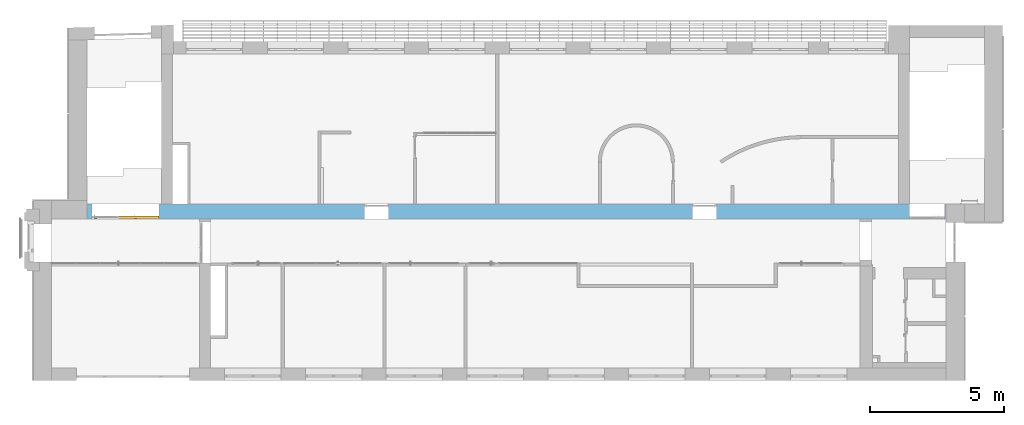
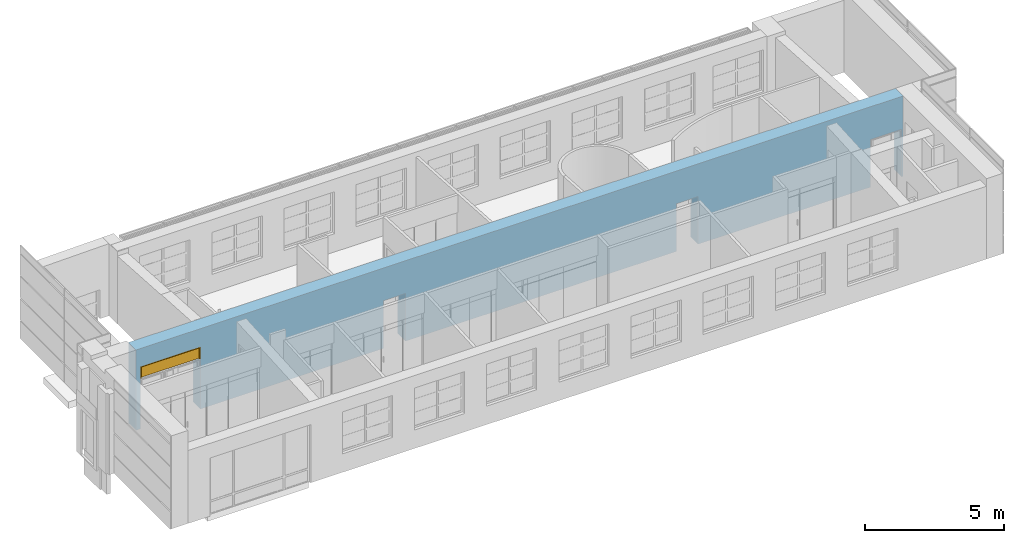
"""IFC2X3 building model written with IfcOpenShell, lengths in millimetres."""

import ifcopenshell
import ifcopenshell.guid

model = None  # the IFC model being written
_history = None  # IfcOwnerHistory: only IFC2X3 demands one
_inside = {}  # id of a spatial element -> (the spatial element, [elements in it])
_under = {}  # id of a project, library or spatial element -> (it, [spatial elements below it])
_declared = {}  # id of a project -> (the project, [libraries it declares])
_typed = {}  # id of a type object -> (the type object, [elements of that type])
_made_of = {}  # id of a material, layer set ... -> (it, [elements and type objects made of it])


def new_model(schema):
    """Start an empty IFC model of exactly this schema.

    Asked for "IFC4X3", IfcOpenShell would pick the latest addendum, in which some entities
    have other attributes; the version numbers below select the first issue.
    IFC2X3 requires an IfcOwnerHistory on every rooted entity: one is made here for all.
    """
    global model, _history
    if schema == "IFC4X3":
        model = ifcopenshell.file(schema_version=(4, 3, 0, 0))
    else:
        model = ifcopenshell.file(schema=schema)
    _inside.clear()
    _under.clear()
    _declared.clear()
    _typed.clear()
    _made_of.clear()
    _history = None
    if model.schema == "IFC2X3":
        org = make("IfcOrganization", Name="unknown")
        user = make(
            "IfcPersonAndOrganization",
            ThePerson=make("IfcPerson", FamilyName="unknown"),
            TheOrganization=org,
        )
        app = make(
            "IfcApplication",
            ApplicationDeveloper=org,
            Version="unknown",
            ApplicationFullName="unknown",
            ApplicationIdentifier="unknown",
        )
        _history = make(
            "IfcOwnerHistory",
            OwningUser=user,
            OwningApplication=app,
            ChangeAction="ADDED",
            CreationDate=0,
        )
    return model


def make(cls, **values):
    """One entity of the class cls with the attributes given. An attribute that is None is left unset."""
    return model.create_entity(
        cls, **{name: value for name, value in values.items() if value is not None}
    )


def entity(cls, *values):
    """Any entity or typed value of the class cls, its attributes in the order of the schema. None: left unset."""
    e = model.create_entity(cls)
    for i, value in enumerate(values):
        if value is not None:
            e[i] = value
    return e


def rooted(cls, **values):
    """An entity with a GlobalId (a new one), such as an element, a storey or a relation."""
    return make(cls, GlobalId=ifcopenshell.guid.new(), OwnerHistory=_history, **values)


def si_unit(unit_type, name, prefix=None):
    """IfcSIUnit, for example si_unit("LENGTHUNIT", "METRE", prefix="MILLI")."""
    return make("IfcSIUnit", UnitType=unit_type, Prefix=prefix, Name=name)


def converted_unit(unit_type, name, factor, base, dimensions=None, offset=None):
    """IfcConversionBasedUnit, such as the inch: factor (a typed value) times the base unit."""
    return make(
        "IfcConversionBasedUnit"
        if offset is None
        else "IfcConversionBasedUnitWithOffset",
        ConversionOffset=offset,
        Dimensions=None
        if dimensions is None
        else entity("IfcDimensionalExponents", *dimensions),
        UnitType=unit_type,
        Name=name,
        ConversionFactor=make(
            "IfcMeasureWithUnit", ValueComponent=factor, UnitComponent=base
        ),
    )


def derived_unit(unit_type, elements):
    """IfcDerivedUnit: a product of units, each with its exponent."""
    return make(
        "IfcDerivedUnit",
        Elements=[
            make("IfcDerivedUnitElement", Unit=unit, Exponent=power)
            for unit, power in elements
        ],
        UnitType=unit_type,
    )


def assignment(units):
    """IfcUnitAssignment: the units of a project."""
    return None if units is None else make("IfcUnitAssignment", Units=units)


def point(xyz):
    """IfcCartesianPoint."""
    return None if xyz is None else make("IfcCartesianPoint", Coordinates=xyz)


def direction(xyz):
    """IfcDirection."""
    return None if xyz is None else make("IfcDirection", DirectionRatios=xyz)


def frame(location, z_axis=None, x_axis=None):
    """IfcAxis2Placement3D, a coordinate frame: its origin and axes. An axis left out is left unset."""
    return make(
        "IfcAxis2Placement3D",
        Location=point(location),
        Axis=direction(z_axis),
        RefDirection=direction(x_axis),
    )


def frame_2d(location, x_axis=None):
    """IfcAxis2Placement2D, a coordinate frame in the plane: its origin and x axis."""
    return make(
        "IfcAxis2Placement2D", Location=point(location), RefDirection=direction(x_axis)
    )


def origin():
    """The frame at (0, 0, 0) with its axes left unset."""
    return frame((0.0, 0.0, 0.0))


def place(relative_to, where):
    """IfcLocalPlacement: puts the frame where relative to a parent placement (None: the world)."""
    return make(
        "IfcLocalPlacement", PlacementRelTo=relative_to, RelativePlacement=where
    )


def context(
    kind, dimensions, precision=None, world=None, true_north=None, identifier=None
):
    """IfcGeometricRepresentationContext, for example the 3D "Model" context."""
    return make(
        "IfcGeometricRepresentationContext",
        ContextIdentifier=identifier,
        ContextType=kind,
        CoordinateSpaceDimension=dimensions,
        Precision=precision,
        WorldCoordinateSystem=world,
        TrueNorth=true_north,
    )


def subcontext(parent, identifier, kind, view, scale=None):
    """IfcGeometricRepresentationSubContext, for example "Body" below "Model"."""
    return make(
        "IfcGeometricRepresentationSubContext",
        ContextIdentifier=identifier,
        ContextType=kind,
        ParentContext=parent,
        TargetScale=scale,
        TargetView=view,
    )


def project(units=None, contexts=None):
    """IfcProject with its units and contexts."""
    return rooted(
        "IfcProject",
        Name="project",
        RepresentationContexts=contexts,
        UnitsInContext=assignment(units),
    )


def spatial(cls, under=None, at=None, **own):
    """A site, building, storey or space (cls), placed at a placement, below another one or the project."""
    s = rooted(cls, ObjectPlacement=at, **own)
    if under is not None:
        _under.setdefault(under.id(), (under, []))[1].append(s)
    return s


def profile(cls, at=None, kind="AREA", **sizes):
    """A parametric profile (cls). Its sizes go by their IFC names, for example OverallWidth=200.0."""
    return make(cls, ProfileType=kind, Position=at, **sizes)


def rectangle(**sizes):
    """IfcRectangleProfileDef."""
    return profile("IfcRectangleProfileDef", **sizes)


def extrude(swept, where, along, depth):
    """IfcExtrudedAreaSolid: the profile swept, set in the frame where, extruded along a direction by depth."""
    return make(
        "IfcExtrudedAreaSolid",
        SweptArea=swept,
        Position=where,
        ExtrudedDirection=direction(along),
        Depth=depth,
    )


def faces_of(points, faces, orient=None, outer=None):
    """IfcFace entities. A face is a list of loops; a loop is a list of indices into points, from 0.

    orient and outer hold one flag for each loop. By default every Orientation is true, the
    first loop of a face is its IfcFaceOuterBound and the others are IfcFaceBound.
    """
    made = []
    for i, loops in enumerate(faces):
        bounds = []
        for j, loop in enumerate(loops):
            is_outer = j == 0 if outer is None else outer[i][j]
            bounds.append(
                make(
                    "IfcFaceOuterBound" if is_outer else "IfcFaceBound",
                    Bound=make("IfcPolyLoop", Polygon=[points[k] for k in loop]),
                    Orientation=True if orient is None else orient[i][j],
                )
            )
        made.append(make("IfcFace", Bounds=bounds))
    return made


def faceted_brep(points, faces, orient=None, outer=None, voids=None):
    """IfcFacetedBrep: a solid bounded by flat faces; with voids (closed shells), ...WithVoids."""
    shared = [point(p) for p in points]
    hull = make("IfcClosedShell", CfsFaces=faces_of(shared, faces, orient, outer))
    if voids is None:
        return make("IfcFacetedBrep", Outer=hull)
    return make(
        "IfcFacetedBrepWithVoids",
        Outer=hull,
        Voids=[
            make(cls, CfsFaces=faces_of(shared, fs, o, b)) for cls, fs, o, b in voids
        ],
    )


def shape(context_of_items, identifier, shape_type, items):
    """IfcShapeRepresentation: the items that make up one representation, for example the "Body"."""
    return make(
        "IfcShapeRepresentation",
        ContextOfItems=context_of_items,
        RepresentationIdentifier=identifier,
        RepresentationType=shape_type,
        Items=items,
    )


def source(mapping_origin, context_of_items, identifier, shape_type, items):
    """IfcRepresentationMap: a shape defined once, which mapped items show again and again."""
    return make(
        "IfcRepresentationMap",
        MappingOrigin=mapping_origin,
        MappedRepresentation=shape(context_of_items, identifier, shape_type, items),
    )


def transform(
    local_origin,
    x_axis=None,
    y_axis=None,
    z_axis=None,
    scale=None,
    scale2=None,
    scale3=None,
    uniform=True,
):
    """IfcCartesianTransformationOperator3D, or its non-uniform kind. x_axis, y_axis, z_axis: its Axis1, 2, 3."""
    if uniform:
        return make(
            "IfcCartesianTransformationOperator3D",
            Axis1=direction(x_axis),
            Axis2=direction(y_axis),
            LocalOrigin=point(local_origin),
            Scale=scale,
            Axis3=direction(z_axis),
        )
    return make(
        "IfcCartesianTransformationOperator3DnonUniform",
        Axis1=direction(x_axis),
        Axis2=direction(y_axis),
        LocalOrigin=point(local_origin),
        Scale=scale,
        Axis3=direction(z_axis),
        Scale2=scale2,
        Scale3=scale3,
    )


def mapped(mapping_source, mapping_target):
    """IfcMappedItem: shows the shape of a source again, moved by a transform."""
    return make(
        "IfcMappedItem", MappingSource=mapping_source, MappingTarget=mapping_target
    )


def material(Name=None, Category=None):
    """IfcMaterial."""
    return make("IfcMaterial", Name=Name, Category=Category)


def material_list(materials):
    """IfcMaterialList."""
    return make("IfcMaterialList", Materials=materials)


def layer(
    of_material, thickness, ventilated=None, Name=None, Category=None, Priority=None
):
    """IfcMaterialLayer: one layer of a wall or slab, of a material (None: an air gap)."""
    return make(
        "IfcMaterialLayer",
        Material=of_material,
        LayerThickness=thickness,
        IsVentilated=ventilated,
        Name=Name,
        Category=Category,
        Priority=Priority,
    )


def layer_set(layers, Name=None):
    """IfcMaterialLayerSet."""
    return make("IfcMaterialLayerSet", MaterialLayers=layers, LayerSetName=Name)


def layer_usage(for_layer_set, set_direction, sense, offset, extent=None):
    """IfcMaterialLayerSetUsage: how a layer set lies in its element."""
    return make(
        "IfcMaterialLayerSetUsage",
        ForLayerSet=for_layer_set,
        LayerSetDirection=set_direction,
        DirectionSense=sense,
        OffsetFromReferenceLine=offset,
        ReferenceExtent=extent,
    )


def made_of(thing, what):
    """Note that an element or type object is made of a material, layer set ...; save() writes the relation."""
    if what is not None:
        _made_of.setdefault(what.id(), (what, []))[1].append(thing)
    return thing


def type_object(cls, material=None, **own):
    """A type object (cls), such as IfcWallType, which elements share."""
    return made_of(rooted(cls, **own), material)


def type_shapes(of_type, sources):
    """Give a type object the sources (RepresentationMaps) that its elements show as mapped items."""
    of_type.RepresentationMaps = sources


def element(
    cls,
    number,
    at=None,
    inside=None,
    cuts=None,
    type_object=None,
    material=None,
    context=None,
    identifier="Body",
    shape_type=None,
    held_by="IfcProductDefinitionShape",
    body=None,
    shapes=None,
    **own,
):
    """One element of the class cls, such as IfcWall. Its Tag is "e" and its number.

    at: its placement. inside: the storey or other place that contains it. cuts: it is an
    opening in that element (IfcRelVoidsElement). A single representation is given by context,
    identifier, shape_type and body (its items); several are given by shapes. held_by: the class
    of the entity that holds the representations. save() writes the other relations.
    """
    e = rooted(cls, Tag="e%d" % number, ObjectPlacement=at, **own)
    if body is not None:
        shapes = [shape(context, identifier, shape_type, body)]
    if shapes is not None:
        e.Representation = make(held_by, Representations=shapes)
    if inside is not None:
        _inside.setdefault(inside.id(), (inside, []))[1].append(e)
    if cuts is not None:
        rooted(
            "IfcRelVoidsElement", RelatingBuildingElement=cuts, RelatedOpeningElement=e
        )
    if type_object is not None:
        _typed.setdefault(type_object.id(), (type_object, []))[1].append(e)
    return made_of(e, material)


def fill(opening, filler):
    """IfcRelFillsElement: the door or window that sits in an opening."""
    return rooted(
        "IfcRelFillsElement",
        RelatingOpeningElement=opening,
        RelatedBuildingElement=filler,
    )


def aggregate(whole, parts):
    """IfcRelAggregates: a whole, such as a stair, and the parts it consists of."""
    return rooted("IfcRelAggregates", RelatingObject=whole, RelatedObjects=parts)


def save(model, path):
    """Write the relations noted so far, then the file.

    IfcRelAggregates (storeys below a building ...), IfcRelContainedInSpatialStructure (elements
    in a storey), IfcRelDefinesByType, IfcRelAssociatesMaterial and IfcRelDeclares: one each for
    every whole, place, type object, material and project.
    """
    for whole, parts in _under.values():
        aggregate(whole, parts)
    for where, things in _inside.values():
        rooted(
            "IfcRelContainedInSpatialStructure",
            RelatedElements=things,
            RelatingStructure=where,
        )
    for kind, things in _typed.values():
        rooted("IfcRelDefinesByType", RelatedObjects=things, RelatingType=kind)
    for what, things in _made_of.values():
        rooted("IfcRelAssociatesMaterial", RelatedObjects=things, RelatingMaterial=what)
    for by, libraries in _declared.values():
        rooted("IfcRelDeclares", RelatingContext=by, RelatedDefinitions=libraries)
    model.write(path)


model = new_model("IFC2X3")

# Units and contexts
model_context = context("Model", 3, precision=0.01, world=origin(), true_north=direction((6.12303176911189e-17, 1.0)))
body_context = subcontext(model_context, "Body", "Model", "MODEL_VIEW")
ifc_project = project(units=[si_unit("LENGTHUNIT", "METRE", prefix="MILLI"), si_unit("AREAUNIT", "SQUARE_METRE"), si_unit("VOLUMEUNIT", "CUBIC_METRE"), converted_unit("PLANEANGLEUNIT", "DEGREE", entity("IfcRatioMeasure", 0.0174532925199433), si_unit("PLANEANGLEUNIT", "RADIAN"), dimensions=[0, 0, 0, 0, 0, 0, 0]), si_unit("MASSUNIT", "GRAM", prefix="KILO"), derived_unit("MASSDENSITYUNIT", [(si_unit("MASSUNIT", "GRAM", prefix="KILO"), 1), (si_unit("LENGTHUNIT", "METRE"), -3)]), si_unit("TIMEUNIT", "SECOND"), si_unit("FREQUENCYUNIT", "HERTZ"), si_unit("THERMODYNAMICTEMPERATUREUNIT", "DEGREE_CELSIUS"), derived_unit("THERMALTRANSMITTANCEUNIT", [(si_unit("MASSUNIT", "GRAM", prefix="KILO"), 1), (si_unit("THERMODYNAMICTEMPERATUREUNIT", "KELVIN"), -1), (si_unit("TIMEUNIT", "SECOND"), -3)]), derived_unit("VOLUMETRICFLOWRATEUNIT", [(si_unit("LENGTHUNIT", "METRE"), 3), (si_unit("TIMEUNIT", "SECOND"), -1)]), si_unit("ELECTRICCURRENTUNIT", "AMPERE"), si_unit("ELECTRICVOLTAGEUNIT", "VOLT"), si_unit("POWERUNIT", "WATT"), si_unit("FORCEUNIT", "NEWTON", prefix="KILO"), si_unit("ILLUMINANCEUNIT", "LUX"), si_unit("LUMINOUSFLUXUNIT", "LUMEN"), si_unit("LUMINOUSINTENSITYUNIT", "CANDELA"), derived_unit("USERDEFINED", [(si_unit("MASSUNIT", "GRAM", prefix="KILO"), -1), (si_unit("LENGTHUNIT", "METRE"), -2), (si_unit("TIMEUNIT", "SECOND"), 3), (si_unit("LUMINOUSFLUXUNIT", "LUMEN"), 1)]), derived_unit("LINEARVELOCITYUNIT", [(si_unit("LENGTHUNIT", "METRE"), 1), (si_unit("TIMEUNIT", "SECOND"), -1)]), si_unit("PRESSUREUNIT", "PASCAL"), derived_unit("USERDEFINED", [(si_unit("LENGTHUNIT", "METRE"), -2), (si_unit("MASSUNIT", "GRAM", prefix="KILO"), 1), (si_unit("TIMEUNIT", "SECOND"), -2)])], contexts=[model_context])

# Site, building, storey
site_placement = place(None, frame((-151.875543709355, 2715.0, 0.0)))
site = spatial("IfcSite", under=ifc_project, at=site_placement, Name="Surface", CompositionType="ELEMENT")
building_placement = place(site_placement, origin())
building = spatial("IfcBuilding", under=site, at=building_placement, CompositionType="ELEMENT")
storey_1_placement = place(building_placement, frame((0.0, 0.0, 10060.0)))
storey_1 = spatial("IfcBuildingStorey", under=building, at=storey_1_placement, Name="4 korrus", CompositionType="ELEMENT", Elevation=10060.0000000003)

# Wall, openings
ifc_material_1 = material(Name="__Kips GN13_tava")
ifc_layer_1 = layer(ifc_material_1, 20.0)
ifc_material_2 = material(Name="Masonry - Brick")
ifc_layer_2 = layer(ifc_material_2, 510.0)
ifc_layer_3 = layer(ifc_material_1, 20.0)
ifc_layer_set = layer_set([ifc_layer_1, ifc_layer_2, ifc_layer_3], Name="Basic Wall:SS-1")
ifc_layer_usage = layer_usage(ifc_layer_set, "AXIS2", "POSITIVE", -275.0)
wall_type = type_object("IfcWallType", Name="Basic Wall:SS-1", PredefinedType="STANDARD", material=ifc_layer_set)
wall_placement = place(storey_1_placement, frame((1770.0, 6285.0, 0.0)))
wall = element("IfcWallStandardCase", 1, at=wall_placement, inside=storey_1, type_object=wall_type, material=ifc_layer_usage, Name="SEIN - 002", ObjectType="Basic Wall:SS-1", context=body_context, shape_type="SweptSolid", body=[
    extrude(rectangle(XDim=31971.6162682, YDim=550.000000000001, at=frame_2d((15985.8081341, 0.0), x_axis=(-1.0, 0.0))), origin(), (0.0, 0.0, 1.0), 3540.0),
])
opening_1_placement = place(wall_placement, frame((23427.3743763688, 275.0, 0.0)))
element("IfcOpeningElement", 2, at=opening_1_placement, cuts=wall, Name="Ühepoolsed:SU-02.:1", ObjectType="Opening", context=body_context, shape_type="SweptSolid", body=[
    extrude(rectangle(XDim=2099.99999999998, YDim=900.0, at=frame_2d((1049.99999999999, 450.0), x_axis=(1.0, 0.0))), frame((0.0, 0.0, 0.0), z_axis=(0.0, -1.0, 0.0), x_axis=(0.0, 0.0, 1.0)), (0.0, 0.0, 1.0), 550.0),
])
opening_2_placement = place(wall_placement, frame((30602.6162682, -275.0, 0.0)))
element("IfcOpeningElement", 3, at=opening_2_placement, cuts=wall, Name="Kahepoolsed:SU-11:1", ObjectType="Opening", context=body_context, shape_type="SweptSolid", body=[
    extrude(rectangle(XDim=2099.99999999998, YDim=1300.0, at=frame_2d((1049.99999999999, 650.0), x_axis=(1.0, 0.0))), frame((0.0, 0.0, 0.0), z_axis=(0.0, 1.0, 0.0), x_axis=(0.0, 0.0, 1.0)), (0.0, 0.0, 1.0), 550.0),
])
opening_3_placement = place(wall_placement, frame((11222.6489830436, 275.0, 0.0)))
element("IfcOpeningElement", 4, at=opening_3_placement, cuts=wall, Name="Ühepoolsed:SU-02:1", ObjectType="Opening", context=body_context, shape_type="SweptSolid", body=[
    extrude(rectangle(XDim=2099.99999999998, YDim=900.0, at=frame_2d((1049.99999999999, 449.999999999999), x_axis=(1.0, 0.0))), frame((0.0, 0.0, 0.0), z_axis=(0.0, -1.0, 0.0), x_axis=(0.0, 0.0, 1.0)), (0.0, 0.0, 1.0), 550.0),
])
opening_4_placement = place(wall_placement, frame((188.767567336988, -275.0, 2200.0)))
opening_4 = element("IfcOpeningElement", 5, at=opening_4_placement, cuts=wall, Name="Ühepoolsed:SU17_ülemine:1", ObjectType="Opening", context=body_context, shape_type="SweptSolid", body=[
    extrude(rectangle(XDim=539.999999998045, YDim=2500.0, at=frame_2d((269.999999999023, 1250.0), x_axis=(1.0, 0.0))), frame((0.0, 0.0, 0.0), z_axis=(0.0, 1.0, 0.0), x_axis=(0.0, 0.0, 1.0)), (0.0, 0.0, 1.0), 550.0),
])
opening_5_placement = place(wall_placement, frame((1188.76756733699, -275.0, 0.0)))
element("IfcOpeningElement", 6, at=opening_5_placement, cuts=wall, Name="Kahepoolsed:SU-17:1", ObjectType="Opening", context=body_context, shape_type="SweptSolid", body=[
    extrude(rectangle(XDim=2199.99999999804, YDim=1500.0, at=frame_2d((1099.99999999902, 750.0), x_axis=(1.0, 0.0))), frame((0.0, 0.0, 0.0), z_axis=(0.0, 1.0, 0.0), x_axis=(0.0, 0.0, 1.0)), (0.0, 0.0, 1.0), 550.0),
])
opening_6_placement = place(wall_placement, frame((188.767567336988, -275.0, 0.0)))
element("IfcOpeningElement", 7, at=opening_6_placement, cuts=wall, Name="Aken ukse kohal:SU-1500_aken:1", ObjectType="Opening", context=body_context, shape_type="SweptSolid", body=[
    extrude(rectangle(XDim=2199.99999999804, YDim=1000.0, at=frame_2d((1099.99999999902, 500.0), x_axis=(1.0, 0.0))), frame((0.0, 0.0, 0.0), z_axis=(0.0, 1.0, 0.0), x_axis=(0.0, 0.0, 1.0)), (0.0, 0.0, 1.0), 550.0),
])

# Storey
storey_2_placement = place(building_placement, frame((0.0, 0.0, 11805.0)))
storey_2 = spatial("IfcBuildingStorey", under=building, at=storey_2_placement, Name="uus Katus", CompositionType="ELEMENT", Elevation=11805.0000000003)

# Door
ifc_material_3 = material(Name="_Alumiiniumprofiil - must")
ifc_material_4 = material(Name="__Uks_hele tamm")
ifc_material_list_1 = material_list([ifc_material_3, ifc_material_4])
ifc_material_list_2 = material_list([ifc_material_3, ifc_material_4])
door_style = type_object("IfcDoorStyle", Name="SU17_ülemine", ConstructionType="NOTDEFINED", OperationType="SINGLE_SWING_RIGHT", ParameterTakesPrecedence=False, Sizeable=False, material=ifc_material_list_2)
shared_shape = source(origin(), body_context, "Body", "Brep", [
    faceted_brep([(100.0, 10.0, 1112.5), (100.0, 48.0, 1112.5), (75.0, 48.0, 1112.5), (75.0, 5.0, 1112.5), (195.0, 5.0, 1112.5), (195.0, 10.0, 1112.5), (100.0, 10.0, 1087.5), (195.0, 10.0, 1087.5), (195.0, 5.0, 1087.5), (75.0, 5.0, 1087.5), (75.0, 48.0, 1087.5), (100.0, 48.0, 1087.5)], [[[0, 1, 2, 3, 4, 5]], [[6, 7, 8, 9, 10, 11]], [[1, 0, 6, 11]], [[2, 1, 11, 10]], [[3, 2, 10, 9]], [[4, 3, 9, 8]], [[5, 4, 8, 7]], [[0, 5, 7, 6]]]),
    faceted_brep([(112.500000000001, 48.0, 1137.5), (112.500000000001, 50.0, 1137.5), (62.5000000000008, 50.0, 1137.5), (62.5000000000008, 48.0, 1137.5), (112.500000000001, 48.0, 1017.5), (62.5000000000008, 48.0, 1017.5), (62.5000000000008, 50.0, 1017.5), (112.500000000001, 50.0, 1017.5)], [[[0, 1, 2, 3]], [[4, 5, 6, 7]], [[1, 0, 4, 7]], [[2, 1, 7, 6]], [[3, 2, 6, 5]], [[0, 3, 5, 4]]]),
    faceted_brep([(100.0, 140.0, 1112.5), (195.0, 140.0, 1112.5), (195.0, 145.0, 1112.5), (75.0, 145.0, 1112.5), (75.0, 102.0, 1112.5), (100.0, 102.0, 1112.5), (100.0, 140.0, 1087.5), (100.0, 102.0, 1087.5), (75.0, 102.0, 1087.5), (75.0, 145.0, 1087.5), (195.0, 145.0, 1087.5), (195.0, 140.0, 1087.5)], [[[0, 1, 2, 3, 4, 5]], [[6, 7, 8, 9, 10, 11]], [[5, 7, 6, 0]], [[4, 8, 7, 5]], [[3, 9, 8, 4]], [[2, 10, 9, 3]], [[1, 11, 10, 2]], [[0, 6, 11, 1]]]),
    faceted_brep([(112.500000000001, 102.0, 1137.5), (62.5000000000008, 102.0, 1137.5), (62.5000000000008, 100.0, 1137.5), (112.500000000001, 100.0, 1137.5), (112.500000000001, 102.0, 1017.5), (112.500000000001, 100.0, 1017.5), (62.5000000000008, 100.0, 1017.5), (62.5000000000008, 102.0, 1017.5)], [[[0, 1, 2, 3]], [[4, 5, 6, 7]], [[3, 5, 4, 0]], [[2, 6, 5, 3]], [[1, 7, 6, 2]], [[0, 4, 7, 1]]]),
    faceted_brep([(2500.0, 10.0, 0.0), (2460.0, 10.0, 0.0), (2460.0, 50.0, 0.0), (2475.0, 50.0, 0.0), (2475.0, 100.0, 0.0), (2500.0, 100.0, 0.0), (2500.0, 10.0, 540.0), (0.0, 10.0, 540.0), (0.0, 10.0, 0.0), (40.0, 10.0, 0.0), (40.0, 10.0, 500.0), (2460.0, 10.0, 500.0), (2460.0, 50.0, 500.0), (40.0, 50.0, 500.0), (40.0, 50.0, 0.0), (25.0, 50.0, 0.0), (25.0, 50.0, 515.0), (2475.0, 50.0, 515.0), (2475.0, 100.0, 515.0), (25.0, 100.0, 515.0), (25.0, 100.0, 0.0), (0.0, 100.0, 0.0), (0.0, 100.0, 540.0), (2500.0, 100.0, 540.0)], [[[0, 1, 2, 3, 4, 5]], [[1, 0, 6, 7, 8, 9, 10, 11]], [[2, 1, 11, 12]], [[3, 2, 12, 13, 14, 15, 16, 17]], [[4, 3, 17, 18]], [[5, 4, 18, 19, 20, 21, 22, 23]], [[0, 5, 23, 6]], [[8, 7, 22, 21]], [[9, 8, 21, 20, 15, 14]], [[10, 9, 14, 13]], [[16, 15, 20, 19]], [[11, 10, 13, 12]], [[17, 16, 19, 18]], [[7, 6, 23, 22]]]),
    faceted_brep([(25.0, 50.0, 515.0), (25.0, 50.0, 20.0), (2475.0, 50.0, 20.0), (2475.0, 50.0, 515.0), (25.0, 100.0, 515.0), (2475.0, 100.0, 515.0), (2475.0, 100.0, 20.0), (25.0, 100.0, 20.0)], [[[0, 1, 2, 3]], [[4, 5, 6, 7]], [[1, 0, 4, 7]], [[2, 1, 7, 6]], [[3, 2, 6, 5]], [[0, 3, 5, 4]]]),
])
type_shapes(door_style, [shared_shape])
door_placement = place(opening_4_placement, origin())
door = element("IfcDoor", 8, at=door_placement, inside=storey_2, type_object=door_style, material=ifc_material_list_1, Name="Ühepoolsed:SU17_ülemine", ObjectType="SU17_ülemine", OverallHeight=539.999999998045, OverallWidth=2500.0, context=body_context, shape_type="MappedRepresentation", body=[
    mapped(shared_shape, transform((0.0, 0.0, 0.0), scale=1.0)),
])

fill(opening_4, door)

save(model, "model.ifc")
